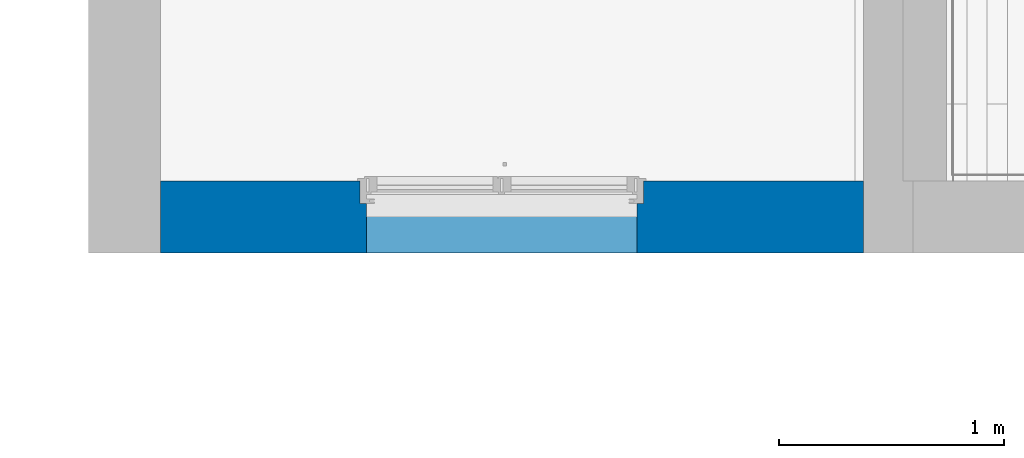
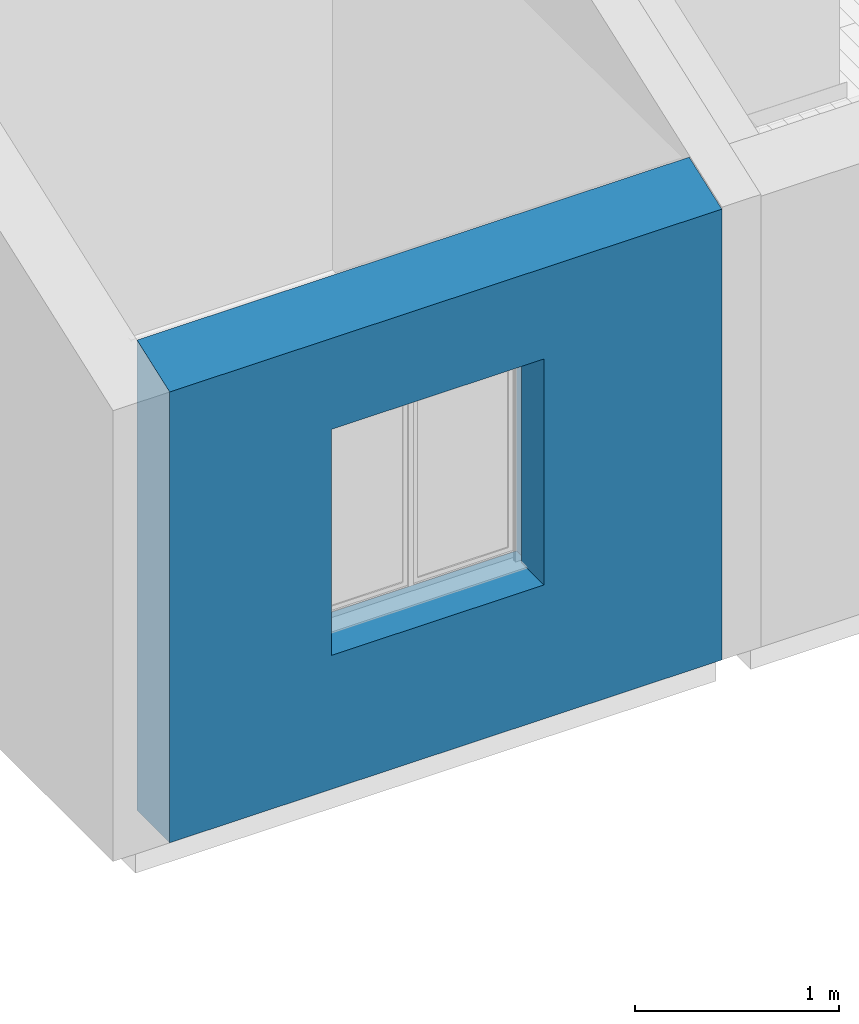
# One storey, part 25 of 61: 1 wall, 1 opening.
"""IFC2X3 building model written with IfcOpenShell, lengths in metres."""

from ifc_helpers import new_model, entity, si_unit, converted_unit, derived_unit, direction, frame, frame_2d, origin, place, context, subcontext, project, spatial, polyline, rectangle, extrude, clip, bounded_halfspace, faceted_brep, material, layer, layer_set, layer_usage, type_object, element, save


model = new_model("IFC2X3")

# Units and contexts
model_context = context("Model", 3, precision=1e-05, world=origin(), true_north=direction((6.12303176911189e-17, 1.0)))
body_context = subcontext(model_context, "Body", "Model", "MODEL_VIEW")
ifc_project = project(units=[si_unit("LENGTHUNIT", "METRE"), si_unit("AREAUNIT", "SQUARE_METRE"), si_unit("VOLUMEUNIT", "CUBIC_METRE"), converted_unit("PLANEANGLEUNIT", "DEGREE", entity("IfcRatioMeasure", 0.0174532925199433), si_unit("PLANEANGLEUNIT", "RADIAN"), dimensions=[0, 0, 0, 0, 0, 0, 0]), si_unit("MASSUNIT", "GRAM", prefix="KILO"), derived_unit("MASSDENSITYUNIT", [(si_unit("MASSUNIT", "GRAM", prefix="KILO"), 1), (si_unit("LENGTHUNIT", "METRE"), -3)]), si_unit("TIMEUNIT", "SECOND"), si_unit("FREQUENCYUNIT", "HERTZ"), si_unit("THERMODYNAMICTEMPERATUREUNIT", "DEGREE_CELSIUS"), derived_unit("THERMALTRANSMITTANCEUNIT", [(si_unit("MASSUNIT", "GRAM", prefix="KILO"), 1), (si_unit("THERMODYNAMICTEMPERATUREUNIT", "KELVIN"), -1), (si_unit("TIMEUNIT", "SECOND"), -3)]), derived_unit("VOLUMETRICFLOWRATEUNIT", [(si_unit("LENGTHUNIT", "METRE"), 3), (si_unit("TIMEUNIT", "SECOND"), -1)]), si_unit("ELECTRICCURRENTUNIT", "AMPERE"), si_unit("ELECTRICVOLTAGEUNIT", "VOLT"), si_unit("POWERUNIT", "WATT"), si_unit("FORCEUNIT", "NEWTON", prefix="KILO"), si_unit("ILLUMINANCEUNIT", "LUX"), si_unit("LUMINOUSFLUXUNIT", "LUMEN"), si_unit("LUMINOUSINTENSITYUNIT", "CANDELA"), derived_unit("USERDEFINED", [(si_unit("MASSUNIT", "GRAM", prefix="KILO"), -1), (si_unit("LENGTHUNIT", "METRE"), -2), (si_unit("TIMEUNIT", "SECOND"), 3), (si_unit("LUMINOUSFLUXUNIT", "LUMEN"), 1)]), derived_unit("LINEARVELOCITYUNIT", [(si_unit("LENGTHUNIT", "METRE"), 1), (si_unit("TIMEUNIT", "SECOND"), -1)]), si_unit("PRESSUREUNIT", "PASCAL"), derived_unit("USERDEFINED", [(si_unit("LENGTHUNIT", "METRE"), -2), (si_unit("MASSUNIT", "GRAM", prefix="KILO"), 1), (si_unit("TIMEUNIT", "SECOND"), -2)])], contexts=[model_context])

# Site, building, storey
site_placement = place(None, origin())
site = spatial("IfcSite", under=ifc_project, at=site_placement, Name="Surface", CompositionType="ELEMENT")
building_placement = place(site_placement, origin())
building = spatial("IfcBuilding", under=site, at=building_placement, CompositionType="ELEMENT")
storey_placement = place(building_placement, frame((0.0, 0.0, 2.82)))
storey = spatial("IfcBuildingStorey", under=building, at=storey_placement, Name="ETAGE", CompositionType="ELEMENT", Elevation=2.82)

# Wall, opening
ifc_material_1 = material(Name="Enduit  gris")
ifc_layer_1 = layer(ifc_material_1, 0.02)
ifc_material_2 = material(Name="Parpaing")
ifc_layer_2 = layer(ifc_material_2, 0.2)
ifc_material_3 = material(Name="Isolant")
ifc_layer_3 = layer(ifc_material_3, 0.1)
ifc_layer_set = layer_set([ifc_layer_1, ifc_layer_2, ifc_layer_3], Name="Mur de base:Ext. Parpaing 20 + Isolant 10 enduit gris")
ifc_layer_usage = layer_usage(ifc_layer_set, "AXIS2", "POSITIVE", -0.16)
wall_type = type_object("IfcWallType", Name="Mur de base:Ext. Parpaing 20 + Isolant 10 enduit gris", PredefinedType="STANDARD", material=ifc_layer_set)
wall_placement = place(storey_placement, frame((80.4110189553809, 81.0875239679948, 0.0)))
wall = element("IfcWallStandardCase", 1, at=wall_placement, inside=storey, type_object=wall_type, material=ifc_layer_usage, Name="Mur de base:Ext. Parpaing 20 + Isolant 10 enduit gris", ObjectType="Mur de base:Ext. Parpaing 20 + Isolant 10 enduit gris", context=body_context, shape_type="Clipping", body=[
    clip(extrude(rectangle(XDim=3.12038340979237, YDim=0.319999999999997, at=frame_2d((1.56019170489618, 0.0), x_axis=(-1.0, 0.0))), origin(), (0.0, 0.0, 1.0), 2.80992330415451), bounded_halfspace(frame((0.0, -0.159999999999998, 2.69345282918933), z_axis=(0.0, 0.342020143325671, -0.939692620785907), x_axis=(-1.0, 0.0, 0.0)), True, frame((0.0, -0.159999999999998, 2.69345282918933)), polyline([(0.0, 0.0), (3.12038340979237, 0.0), (3.12038340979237, 0.319999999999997), (0.0, 0.319999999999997), (0.0, 0.0)]))),
])
opening_placement = place(wall_placement, frame((0.874999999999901, -0.460000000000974, 0.799999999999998)))
element("IfcOpeningElement", 2, at=opening_placement, cuts=wall, Name="Mur de base:Ext. Parpaing 20 + Isolant 10 enduit gris", ObjectType="Opening", context=body_context, shape_type="Brep", body=[
    faceted_brep([(0.0399999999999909, 0.0, 1.35), (1.24, 0.0, 1.35), (1.24, 0.520000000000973, 1.35), (0.0399999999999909, 0.520000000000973, 1.35), (1.24, 0.0, 0.0), (0.0399999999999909, 0.0, 0.0), (0.0399999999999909, 0.520000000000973, 0.0), (0.00999999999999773, 0.520000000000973, 0.0), (0.00999999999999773, 0.620000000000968, 0.0), (0.0399999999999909, 0.620000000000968, 0.0), (0.0399999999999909, 0.720000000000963, 0.0), (1.24, 0.720000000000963, 0.0), (1.24, 0.620000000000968, 0.0), (1.26999999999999, 0.620000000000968, 0.0), (1.26999999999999, 0.520000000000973, 0.0), (1.24, 0.520000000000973, 0.0), (0.0399999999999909, 0.720000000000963, 1.35), (1.24, 0.720000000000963, 1.35), (0.0100000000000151, 0.620000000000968, 1.38), (0.0, 0.620000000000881, 1.38000000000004), (0.0, 0.620000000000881, 1.59000000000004), (1.28000000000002, 0.620000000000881, 1.59000000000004), (1.28000000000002, 0.620000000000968, 1.38000000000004), (1.27000000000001, 0.620000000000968, 1.38), (1.24, 0.620000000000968, 1.35), (0.0400000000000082, 0.620000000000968, 1.35), (0.00999999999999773, 0.520000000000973, 1.38000000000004), (1.27000000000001, 0.520000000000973, 1.38000000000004), (1.28000000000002, 0.520000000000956, 1.38000000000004), (1.28000000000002, 0.520000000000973, 1.59000000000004), (0.0, 0.520000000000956, 1.59000000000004), (0.0, 0.520000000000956, 1.38000000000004)], [[[0, 1, 2, 3]], [[4, 5, 6, 7, 8, 9, 10, 11, 12, 13, 14, 15]], [[1, 0, 5, 4]], [[5, 0, 3, 6]], [[16, 17, 11, 10]], [[1, 4, 15, 2]], [[9, 8, 18, 19, 20, 21, 22, 23, 13, 12, 24, 25]], [[8, 7, 26, 18]], [[7, 6, 3, 2, 15, 14, 27, 28, 29, 30, 31, 26]], [[13, 23, 27, 14]], [[31, 30, 20, 19]], [[28, 22, 21, 29]], [[31, 19, 18, 26]], [[20, 30, 29, 21]], [[22, 28, 27, 23]], [[11, 17, 24, 12]], [[16, 10, 9, 25]], [[17, 16, 25, 24]]]),
])

save(model, "model.ifc")
